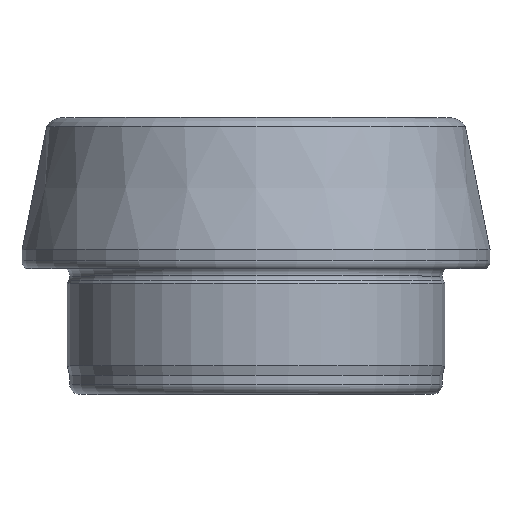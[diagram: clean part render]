
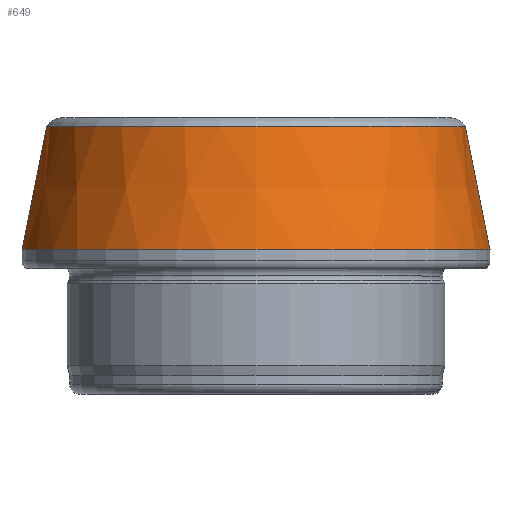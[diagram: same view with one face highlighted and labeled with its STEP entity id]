
A CAD part, top view. The second image highlights one B-rep face of the part: STEP entity #649.
In plain terms, the highlighted conical face has half-angle 11.31 degrees and reference radius 200.001 mm.
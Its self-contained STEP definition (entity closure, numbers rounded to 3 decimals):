
#5 = FACE_OUTER_BOUND ( 'NONE', #870, .T. ) ;
#12 = AXIS2_PLACEMENT_3D ( 'NONE', #881, #797, #707 ) ;
#37 = VERTEX_POINT ( 'NONE', #402 ) ;
#52 = VECTOR ( 'NONE', #101, 1000. ) ;
#58 = EDGE_CURVE ( 'NONE', #528, #162, #796, .T. ) ;
#101 = DIRECTION ( 'NONE',  ( 0.196, -0.981, 0. ) ) ;
#102 = AXIS2_PLACEMENT_3D ( 'NONE', #723, #633, #544 ) ;
#112 = VECTOR ( 'NONE', #422, 1000. ) ;
#128 = ORIENTED_EDGE ( 'NONE', *, *, #343, .T. ) ;
#162 = VERTEX_POINT ( 'NONE', #219 ) ;
#219 = CARTESIAN_POINT ( 'NONE',  ( 9.3, 5.75, 0. ) ) ;
#230 = ORIENTED_EDGE ( 'NONE', *, *, #495, .F. ) ;
#243 = CARTESIAN_POINT ( 'NONE',  ( 0., 52.25, 0. ) ) ;
#266 = ORIENTED_EDGE ( 'NONE', *, *, #436, .F. ) ;
#343 = EDGE_CURVE ( 'NONE', #37, #528, #629, .T. ) ;
#348 = LINE ( 'NONE', #243, #52 ) ;
#402 = CARTESIAN_POINT ( 'NONE',  ( -8.322, 10.641, 0. ) ) ;
#422 = DIRECTION ( 'NONE',  ( -0.196, -0.981, 0. ) ) ;
#436 = EDGE_CURVE ( 'NONE', #939, #162, #348, .T. ) ;
#485 = CARTESIAN_POINT ( 'NONE',  ( -9.3, 5.75, 0. ) ) ;
#495 = EDGE_CURVE ( 'NONE', #37, #939, #676, .T. ) ;
#528 = VERTEX_POINT ( 'NONE', #485 ) ;
#539 = CARTESIAN_POINT ( 'NONE',  ( 0., 52.25, 0. ) ) ;
#544 = DIRECTION ( 'NONE',  ( 1., 0., 0. ) ) ;
#559 = AXIS2_PLACEMENT_3D ( 'NONE', #1006, #917, #832 ) ;
#629 = LINE ( 'NONE', #539, #112 ) ;
#633 = DIRECTION ( 'NONE',  ( 0., 1., 0. ) ) ;
#649 = ADVANCED_FACE ( 'NONE', ( #5 ), #997, .T. ) ;
#676 = CIRCLE ( 'NONE', #102, 8.322 ) ;
#707 = DIRECTION ( 'NONE',  ( 1., 0., 0. ) ) ;
#723 = CARTESIAN_POINT ( 'NONE',  ( 0., 10.641, 0. ) ) ;
#796 = CIRCLE ( 'NONE', #559, 9.3 ) ;
#797 = DIRECTION ( 'NONE',  ( 0., -1., 0. ) ) ;
#832 = DIRECTION ( 'NONE',  ( 1., 0., 0. ) ) ;
#841 = CARTESIAN_POINT ( 'NONE',  ( 8.322, 10.641, 0. ) ) ;
#870 = EDGE_LOOP ( 'NONE', ( #230, #128, #956, #266 ) ) ;
#881 = CARTESIAN_POINT ( 'NONE',  ( 0., -947.75, 0. ) ) ;
#917 = DIRECTION ( 'NONE',  ( 0., 1., 0. ) ) ;
#939 = VERTEX_POINT ( 'NONE', #841 ) ;
#956 = ORIENTED_EDGE ( 'NONE', *, *, #58, .T. ) ;
#997 = CONICAL_SURFACE ( 'NONE', #12, 200.001, 0.197 ) ;
#1006 = CARTESIAN_POINT ( 'NONE',  ( 0., 5.75, 0. ) ) ;
